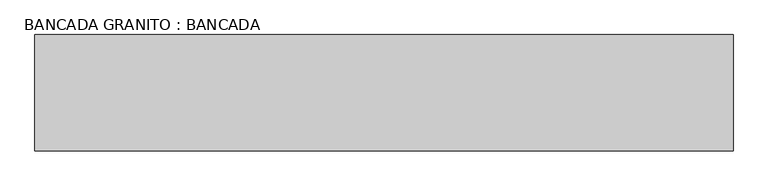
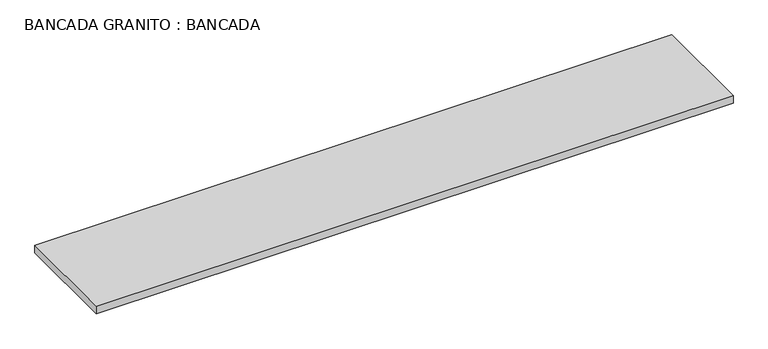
"""IFC4 building model written with IfcOpenShell, lengths in millimetres: furniture geometry, BANCADA GRANITO : BANCADA."""

from ifc_helpers import new_model, si_unit, frame, origin, place, context, project, spatial, polyline, outline, extrude, source, transform, mapped, element, save


def bancada_granito_bancada_a8d06315(model_context):
    return source(origin(), model_context, "Body", "SweptSolid", [
        extrude(outline(polyline([(1672.5377049, 0.0), (1672.5377049, -500.0), (-1327.4622951, -500.0), (-1327.4622951, 0.0), (1672.5377049, 0.0)])), frame((0.0, 0.0, 811.9), z_axis=(0.0, 0.0, 1.0), x_axis=(1.0, 0.0, 0.0)), (0.0, 0.0, 1.0), 38.1),
    ])


if __name__ == "__main__":
    model = new_model("IFC4")
    model_context = context("Model", 3, world=origin())
    ifc_project = project(units=[si_unit("LENGTHUNIT", "METRE", prefix="MILLI")], contexts=[model_context])
    site = spatial("IfcSite", under=ifc_project)
    building = spatial("IfcBuilding", under=site)
    placement = place(None, origin())
    bancada_granito_bancada_shape = bancada_granito_bancada_a8d06315(model_context)
    element("IfcFurniture", 1, ObjectType="BANCADA GRANITO : BANCADA", at=placement, inside=building, context=model_context, shape_type="MappedRepresentation", body=[
        mapped(bancada_granito_bancada_shape, transform((0.0, 0.0, 0.0), x_axis=(1.0, 0.0, 0.0), y_axis=(0.0, 1.0, 0.0), z_axis=(0.0, 0.0, 1.0))),
    ])
    save(model, "model.ifc")
